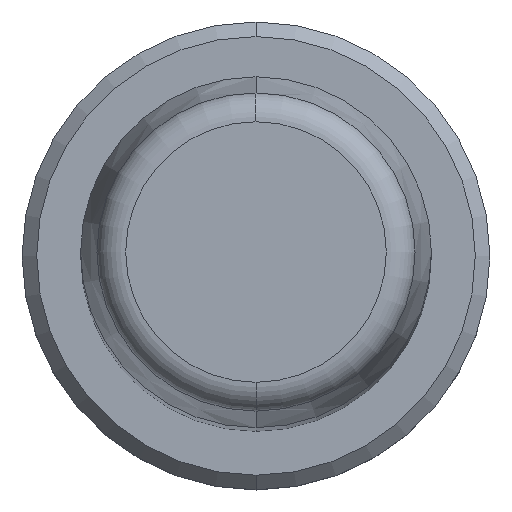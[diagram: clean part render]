
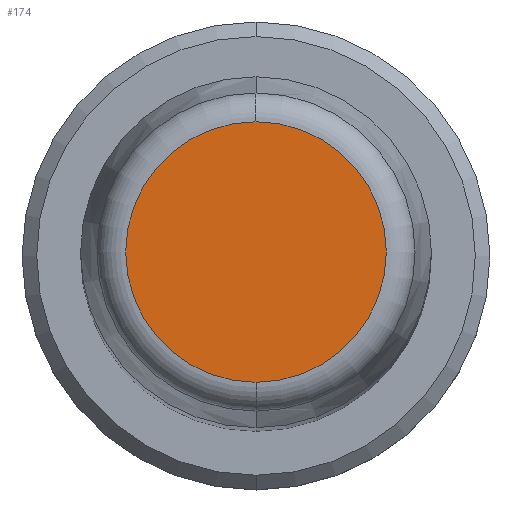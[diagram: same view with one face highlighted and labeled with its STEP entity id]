
A CAD part, top view. The second image highlights one B-rep face of the part: STEP entity #174.
In plain terms, the highlighted planar face has unit normal (0, 0, 1).
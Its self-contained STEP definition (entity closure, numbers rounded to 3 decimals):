
#1=CARTESIAN_POINT('',(0.,0.,80.));
#2=DIRECTION('',(0.,0.,-1.));
#3=DIRECTION('',(0.,-1.,0.));
#4=AXIS2_PLACEMENT_3D('',#1,#2,#3);
#6=CARTESIAN_POINT('',(0.,0.,80.));
#7=DIRECTION('',(0.,0.,-1.));
#8=DIRECTION('',(0.,1.,0.));
#9=AXIS2_PLACEMENT_3D('',#6,#7,#8);
#159=CARTESIAN_POINT('',(0.,-4.456,80.));
#160=CARTESIAN_POINT('',(0.,4.456,80.));
#161=VERTEX_POINT('',#159);
#162=VERTEX_POINT('',#160);
#163=CARTESIAN_POINT('',(0.,0.,80.));
#164=DIRECTION('',(0.,0.,1.));
#165=DIRECTION('',(0.,-1.,0.));
#166=AXIS2_PLACEMENT_3D('',#163,#164,#165);
#167=PLANE('',#166);
#169=ORIENTED_EDGE('',*,*,#168,.T.);
#171=ORIENTED_EDGE('',*,*,#170,.T.);
#172=EDGE_LOOP('',(#169,#171));
#173=FACE_OUTER_BOUND('',#172,.F.);
#174=ADVANCED_FACE('',(#173),#167,.T.);
#5=CIRCLE('',#4,4.456);
#10=CIRCLE('',#9,4.456);
#168=EDGE_CURVE('',#161,#162,#5,.T.);
#170=EDGE_CURVE('',#162,#161,#10,.T.);
